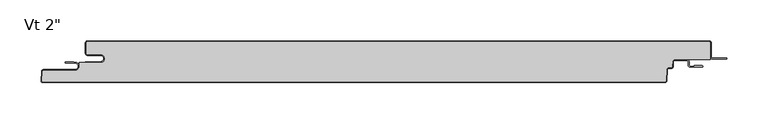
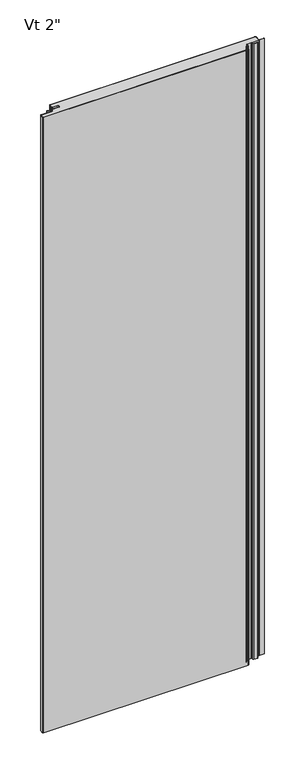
"""IFC4 building model written with IfcOpenShell, lengths in millimetres: plate geometry."""

from ifc_helpers import new_model, si_unit, point, frame, frame_2d, origin, origin_with_axes, place, context, project, spatial, polyline, circle_curve, ellipse_curve, trimmed, segment, composite_curve, outline, extrude, source, transform, mapped, element, save
from ifc_brep_helpers import plane_surface, cylinder_surface, revolved_surface, extruded_surface, advanced_brep


def plate_646a44a0(model_context):
    return source(origin(), model_context, "Body", "SolidModel", [
        extrude(outline(composite_curve([segment(trimmed(circle_curve(frame_2d((335.9683457, -25.4)), 2.5875), [point((335.9683457, -22.8125))], [point((333.3843918, -25.2645807))], True, "CARTESIAN"), True, "CONTINUOUS"), segment(polyline([(333.3843918, -25.2645807), (333.0823155, -31.028539)]), True, "CONTINUOUS"), segment(trimmed(circle_curve(frame_2d((331.7029585, -30.95625)), 1.38125), [point((333.0823155, -31.028539))], [point((331.7029585, -32.3375))], False, "CARTESIAN"), True, "CONTINUOUS"), segment(polyline([(331.7029585, -32.3375), (328.6591521, -32.3375)]), True, "CONTINUOUS"), segment(trimmed(circle_curve(frame_2d((328.6591521, -34.925)), 2.5875), [point((328.6591521, -32.3375))], [point((326.0751982, -34.7895807))], True, "CARTESIAN"), True, "CONTINUOUS"), segment(polyline([(326.0751982, -34.7895807), (325.3571352, -48.491039)]), True, "CONTINUOUS"), segment(trimmed(circle_curve(frame_2d((323.9777781, -48.41875)), 1.38125), [point((325.3571352, -48.491039))], [point((323.9777781, -49.8))], False, "CARTESIAN"), True, "CONTINUOUS"), segment(polyline([(323.9777781, -49.8), (-431.6656861, -49.8)]), True, "CONTINUOUS"), segment(trimmed(circle_curve(frame_2d((-431.6656861, -48.41875)), 1.38125), [point((-431.6656861, -49.8))], [point((-433.0450431, -48.346461))], False, "CARTESIAN"), True, "CONTINUOUS"), segment(polyline([(-433.0450431, -48.346461), (-432.4626617, -37.233961)]), True, "CONTINUOUS"), segment(trimmed(circle_curve(frame_2d((-431.0833046, -37.30625)), 1.38125), [point((-432.4626617, -37.233961))], [point((-431.0833046, -35.925))], False, "CARTESIAN"), True, "CONTINUOUS"), segment(polyline([(-431.0833046, -35.925), (-392.9, -35.925)]), True, "CONTINUOUS"), segment(trimmed(circle_curve(frame_2d((-392.9, -30.95625)), 4.96875), [point((-392.9, -35.925))], [point((-387.93125, -30.95625))], True, "CARTESIAN"), True, "CONTINUOUS"), segment(polyline([(-387.93125, -30.95625), (-387.93125, -26.4), (-361.94375, -26.4)]), True, "CONTINUOUS"), segment(trimmed(circle_curve(frame_2d((-361.94375, -21.43125)), 4.96875), [point((-361.94375, -26.4))], [point((-361.94375, -16.4625))], True, "CARTESIAN"), True, "CONTINUOUS"), segment(polyline([(-361.94375, -16.4625), (-377.81875, -16.4625)]), True, "CONTINUOUS"), segment(trimmed(circle_curve(frame_2d((-377.81875, -15.08125)), 1.38125), [point((-377.81875, -16.4625))], [point((-379.2, -15.08125))], False, "CARTESIAN"), True, "CONTINUOUS"), segment(polyline([(-379.2, -15.08125), (-379.2, -2.38125)]), True, "CONTINUOUS"), segment(trimmed(circle_curve(frame_2d((-377.81875, -2.38125)), 1.38125), [point((-379.2, -2.38125))], [point((-377.81875, -1.0))], False, "CARTESIAN"), True, "CONTINUOUS"), segment(polyline([(-377.81875, -1.0), (377.83125, -1.0)]), True, "CONTINUOUS"), segment(trimmed(circle_curve(frame_2d((377.83125, -2.38125)), 1.38125), [point((377.83125, -1.0))], [point((379.2125, -2.38125))], False, "CARTESIAN"), True, "CONTINUOUS"), segment(polyline([(379.2125, -2.38125), (379.2125, -22.8125), (335.9683457, -22.8125)]), True, "CONTINUOUS")], self_intersect=False)), origin_with_axes(), (0.0, 0.0, 1.0), 2400.0),
        extrude(outline(composite_curve([segment(polyline([(-380.2, -25.4), (-361.94375, -25.4)]), True, "CONTINUOUS"), segment(trimmed(circle_curve(frame_2d((-361.94375, -21.43125)), 3.96875), [point((-361.94375, -25.4))], [point((-361.94375, -17.4625))], True, "CARTESIAN"), True, "CONTINUOUS"), segment(polyline([(-361.94375, -17.4625), (-377.81875, -17.4625)]), True, "CONTINUOUS"), segment(trimmed(circle_curve(frame_2d((-377.81875, -15.08125)), 2.38125), [point((-377.81875, -17.4625))], [point((-380.2, -15.08125))], False, "CARTESIAN"), True, "CONTINUOUS"), segment(polyline([(-380.2, -15.08125), (-380.2, -2.38125)]), True, "CONTINUOUS"), segment(trimmed(circle_curve(frame_2d((-377.81875, -2.38125)), 2.38125), [point((-380.2, -2.38125))], [point((-377.81875, 0.0))], False, "CARTESIAN"), True, "CONTINUOUS"), segment(polyline([(-377.81875, 0.0), (377.83125, 0.0)]), True, "CONTINUOUS"), segment(trimmed(circle_curve(frame_2d((377.83125, -2.38125)), 2.38125), [point((377.83125, 0.0))], [point((380.2125, -2.38125))], False, "CARTESIAN"), True, "CONTINUOUS"), segment(polyline([(380.2125, -2.38125), (380.2125, -19.446875)]), True, "CONTINUOUS"), segment(trimmed(circle_curve(frame_2d((381.8, -19.446875)), 1.5875), [point((380.2125, -19.446875))], [point((381.8, -21.034375))], True, "CARTESIAN"), True, "CONTINUOUS"), segment(polyline([(381.8, -21.034375), (399.2625, -21.034375), (399.2625, -22.034375), (381.8, -22.034375)]), True, "CONTINUOUS"), segment(trimmed(circle_curve(frame_2d((381.8, -19.446875)), 2.5875), [point((381.8, -22.034375))], [point((379.2125, -19.446875))], False, "CARTESIAN"), True, "CONTINUOUS"), segment(polyline([(379.2125, -19.446875), (379.2125, -2.38125)]), True, "CONTINUOUS"), segment(trimmed(circle_curve(frame_2d((377.83125, -2.38125)), 1.38125), [point((379.2125, -2.38125))], [point((377.83125, -1.0))], True, "CARTESIAN"), True, "CONTINUOUS"), segment(polyline([(377.83125, -1.0), (-377.81875, -1.0)]), True, "CONTINUOUS"), segment(trimmed(circle_curve(frame_2d((-377.81875, -2.38125)), 1.38125), [point((-377.81875, -1.0))], [point((-379.2, -2.38125))], True, "CARTESIAN"), True, "CONTINUOUS"), segment(polyline([(-379.2, -2.38125), (-379.2, -15.08125)]), True, "CONTINUOUS"), segment(trimmed(circle_curve(frame_2d((-377.81875, -15.08125)), 1.38125), [point((-379.2, -15.08125))], [point((-377.81875, -16.4625))], True, "CARTESIAN"), True, "CONTINUOUS"), segment(polyline([(-377.81875, -16.4625), (-361.94375, -16.4625)]), True, "CONTINUOUS"), segment(trimmed(circle_curve(frame_2d((-361.94375, -21.43125)), 4.96875), [point((-361.94375, -16.4625))], [point((-361.94375, -26.4))], False, "CARTESIAN"), True, "CONTINUOUS"), segment(polyline([(-361.94375, -26.4), (-380.2, -26.4), (-380.2, -25.4)]), True, "CONTINUOUS")], self_intersect=False)), origin_with_axes(), (0.0, 0.0, 1.0), 2400.0),
        advanced_brep(
        [(-404.2252049, -25.4, 2400.0), (-404.2252049, -26.9875, 2400.0), (-392.9142674, -26.9875, 2400.0), (-392.9142674, -34.925, 2400.0), (-431.0975721, -34.925, 2400.0), (-433.4755586, -37.181625, 2400.0), (-434.0579401, -48.294125, 2400.0), (-431.6799535, -50.8, 2400.0), (323.9635107, -50.8, 2400.0), (326.3414973, -48.543375, 2400.0), (327.0595603, -34.8419167, 2400.0), (328.6448847, -33.3375, 2400.0), (331.6886911, -33.3375, 2400.0), (334.0666776, -31.080875, 2400.0), (334.3687539, -25.3169167, 2400.0), (335.9540783, -23.8125, 2400.0), (350.8294826, -23.8125, 2400.0), (352.4169826, -25.4, 2400.0), (352.4169826, -29.5671875, 2400.0), (354.7982326, -31.9484375, 2400.0), (369.2898532, -31.9484375, 2400.0), (369.2898532, -30.1546875, 2400.0), (359.5607326, -30.1546875, 2400.0), (359.5607326, -30.9484375, 2400.0), (354.7982326, -30.9484375, 2400.0), (353.4169826, -29.5671875, 2400.0), (353.4169826, -25.4, 2400.0), (350.8294826, -22.8125, 2400.0), (335.9540783, -22.8125, 2400.0), (333.3701244, -25.2645807, 2400.0), (333.0680481, -31.028539, 2400.0), (331.6886911, -32.3375, 2400.0), (328.6448847, -32.3375, 2400.0), (326.0609307, -34.7895807, 2400.0), (325.3428677, -48.491039, 2400.0), (323.9635107, -49.8, 2400.0), (-431.6799535, -49.8, 2400.0), (-433.0593106, -48.346461, 2400.0), (-432.4769291, -37.233961, 2400.0), (-431.0975721, -35.925, 2400.0), (-392.9142674, -35.925, 2400.0), (-392.9142674, -25.9875, 2400.0), (-394.5017674, -26.19375, 2400.0), (-394.5017674, -25.4, 2400.0), (-404.2252049, -25.4, 0.0), (-394.5017674, -25.4, 0.0), (-394.5017674, -26.19375, 0.0), (-392.9142674, -25.9875, 0.0), (-392.9142674, -35.925, 0.0), (-431.0975721, -35.925, 0.0), (-432.4769291, -37.233961, 0.0), (-433.0593106, -48.346461, 0.0), (-431.6799535, -49.8, 0.0), (323.9635107, -49.8, 0.0), (325.3428677, -48.491039, 0.0), (326.0609307, -34.7895807, 0.0), (328.6448847, -32.3375, 0.0), (331.6886911, -32.3375, 0.0), (333.0680481, -31.028539, 0.0), (333.3701244, -25.2645807, 0.0), (335.9540783, -22.8125, 0.0), (350.8294826, -22.8125, 0.0), (353.4169826, -25.4, 0.0), (353.4169826, -29.5671875, 0.0), (354.7982326, -30.9484375, 0.0), (359.5607326, -30.9484375, 0.0), (359.5607326, -30.1546875, 0.0), (369.2898532, -30.1546875, 0.0), (369.2898532, -31.9484375, 0.0), (354.7982326, -31.9484375, 0.0), (352.4169826, -29.5671875, 0.0), (352.4169826, -25.4, 0.0), (350.8294826, -23.8125, 0.0), (335.9540783, -23.8125, 0.0), (334.3687539, -25.3169167, 0.0), (334.0666776, -31.080875, 0.0), (331.6886911, -33.3375, 0.0), (328.6448847, -33.3375, 0.0), (327.0595603, -34.8419167, 0.0), (326.3414973, -48.543375, 0.0), (323.9635107, -50.8, 0.0), (-431.6799535, -50.8, 0.0), (-434.0579401, -48.294125, 0.0), (-433.4755586, -37.181625, 0.0), (-431.0975721, -34.925, 0.0), (-392.9142674, -34.925, 0.0), (-392.9142674, -26.9875, 0.0), (-404.2252049, -26.9875, 0.0)],
        [
            (0, 1, circle_curve(frame((-404.2252049, -26.19375, 2400.0), z_axis=(0.0, 0.0, 1.0), x_axis=(1.0, 0.0, 0.0)), 0.79375)),
            (1, 2),
            (2, 3, circle_curve(frame((-392.9142674, -30.95625, 2400.0), z_axis=(0.0, 0.0, -1.0), x_axis=(1.0, 0.0, 0.0)), 3.96875)),
            (3, 4),
            (4, 5, circle_curve(frame((-431.0975721, -37.30625, 2400.0), z_axis=(0.0, 0.0, 1.0), x_axis=(1.0, 0.0, 0.0)), 2.38125)),
            (5, 6),
            (6, 7, circle_curve(frame((-431.6799535, -48.41875, 2400.0), z_axis=(0.0, 0.0, 1.0), x_axis=(1.0, 0.0, 0.0)), 2.38125)),
            (7, 8),
            (8, 9, circle_curve(frame((323.9635107, -48.41875, 2400.0), z_axis=(0.0, 0.0, 1.0), x_axis=(1.0, 0.0, 0.0)), 2.38125)),
            (9, 10),
            (10, 11, circle_curve(frame((328.6448847, -34.925, 2400.0), z_axis=(0.0, 0.0, -1.0), x_axis=(1.0, 0.0, 0.0)), 1.5875)),
            (11, 12),
            (12, 13, circle_curve(frame((331.6886911, -30.95625, 2400.0), z_axis=(0.0, 0.0, 1.0), x_axis=(1.0, 0.0, 0.0)), 2.38125)),
            (13, 14),
            (14, 15, circle_curve(frame((335.9540783, -25.4, 2400.0), z_axis=(0.0, 0.0, -1.0), x_axis=(1.0, 0.0, 0.0)), 1.5875)),
            (15, 16),
            (16, 17, circle_curve(frame((350.8294826, -25.4, 2400.0), z_axis=(0.0, 0.0, -1.0), x_axis=(1.0, 0.0, 0.0)), 1.5875)),
            (17, 18),
            (18, 19, circle_curve(frame((354.7982326, -29.5671875, 2400.0), z_axis=(0.0, 0.0, 1.0), x_axis=(1.0, 0.0, 0.0)), 2.38125)),
            (19, 20),
            (20, 21, ellipse_curve(frame((369.2898532, -31.0515625, 2400.0), z_axis=(0.0, 0.0, 1.0), x_axis=(0.0, 1.0, 0.0)), 0.896875, 0.7852275)),
            (21, 22),
            (22, 23),
            (23, 24),
            (24, 25, circle_curve(frame((354.7982326, -29.5671875, 2400.0), z_axis=(0.0, 0.0, -1.0), x_axis=(1.0, 0.0, 0.0)), 1.38125)),
            (25, 26),
            (26, 27, circle_curve(frame((350.8294826, -25.4, 2400.0), z_axis=(0.0, 0.0, 1.0), x_axis=(1.0, 0.0, 0.0)), 2.5875)),
            (27, 28),
            (28, 29, circle_curve(frame((335.9540783, -25.4, 2400.0), z_axis=(0.0, 0.0, 1.0), x_axis=(1.0, 0.0, 0.0)), 2.5875)),
            (29, 30),
            (30, 31, circle_curve(frame((331.6886911, -30.95625, 2400.0), z_axis=(0.0, 0.0, -1.0), x_axis=(1.0, 0.0, 0.0)), 1.38125)),
            (31, 32),
            (32, 33, circle_curve(frame((328.6448847, -34.925, 2400.0), z_axis=(0.0, 0.0, 1.0), x_axis=(1.0, 0.0, 0.0)), 2.5875)),
            (33, 34),
            (34, 35, circle_curve(frame((323.9635107, -48.41875, 2400.0), z_axis=(0.0, 0.0, -1.0), x_axis=(1.0, 0.0, 0.0)), 1.38125)),
            (35, 36),
            (36, 37, circle_curve(frame((-431.6799535, -48.41875, 2400.0), z_axis=(0.0, 0.0, -1.0), x_axis=(1.0, 0.0, 0.0)), 1.38125)),
            (37, 38),
            (38, 39, circle_curve(frame((-431.0975721, -37.30625, 2400.0), z_axis=(0.0, 0.0, -1.0), x_axis=(1.0, 0.0, 0.0)), 1.38125)),
            (39, 40),
            (40, 41, circle_curve(frame((-392.9142674, -30.95625, 2400.0), z_axis=(0.0, 0.0, 1.0), x_axis=(1.0, 0.0, 0.0)), 4.96875)),
            (41, 42),
            (42, 43),
            (43, 0),
            (44, 45),
            (45, 46),
            (46, 47),
            (47, 48, circle_curve(frame((-392.9142674, -30.95625, 0.0), z_axis=(0.0, 0.0, -1.0), x_axis=(1.0, 0.0, 0.0)), 4.96875)),
            (48, 49),
            (49, 50, circle_curve(frame((-431.0975721, -37.30625, 0.0), z_axis=(0.0, 0.0, 1.0), x_axis=(1.0, 0.0, 0.0)), 1.38125)),
            (50, 51),
            (51, 52, circle_curve(frame((-431.6799535, -48.41875, 0.0), z_axis=(0.0, 0.0, 1.0), x_axis=(1.0, 0.0, 0.0)), 1.38125)),
            (52, 53),
            (53, 54, circle_curve(frame((323.9635107, -48.41875, 0.0), z_axis=(0.0, 0.0, 1.0), x_axis=(1.0, 0.0, 0.0)), 1.38125)),
            (54, 55),
            (55, 56, circle_curve(frame((328.6448847, -34.925, 0.0), z_axis=(0.0, 0.0, -1.0), x_axis=(1.0, 0.0, 0.0)), 2.5875)),
            (56, 57),
            (57, 58, circle_curve(frame((331.6886911, -30.95625, 0.0), z_axis=(0.0, 0.0, 1.0), x_axis=(1.0, 0.0, 0.0)), 1.38125)),
            (58, 59),
            (59, 60, circle_curve(frame((335.9540783, -25.4, 0.0), z_axis=(0.0, 0.0, -1.0), x_axis=(1.0, 0.0, 0.0)), 2.5875)),
            (60, 61),
            (61, 62, circle_curve(frame((350.8294826, -25.4, 0.0), z_axis=(0.0, 0.0, -1.0), x_axis=(1.0, 0.0, 0.0)), 2.5875)),
            (62, 63),
            (63, 64, circle_curve(frame((354.7982326, -29.5671875, 0.0), z_axis=(0.0, 0.0, 1.0), x_axis=(1.0, 0.0, 0.0)), 1.38125)),
            (64, 65),
            (65, 66),
            (66, 67),
            (67, 68, ellipse_curve(frame((369.2898532, -31.0515625, 0.0), z_axis=(0.0, 0.0, -1.0), x_axis=(0.0, 1.0, 0.0)), 0.896875, 0.7852275)),
            (68, 69),
            (69, 70, circle_curve(frame((354.7982326, -29.5671875, 0.0), z_axis=(0.0, 0.0, -1.0), x_axis=(1.0, 0.0, 0.0)), 2.38125)),
            (70, 71),
            (71, 72, circle_curve(frame((350.8294826, -25.4, 0.0), z_axis=(0.0, 0.0, 1.0), x_axis=(1.0, 0.0, 0.0)), 1.5875)),
            (72, 73),
            (73, 74, circle_curve(frame((335.9540783, -25.4, 0.0), z_axis=(0.0, 0.0, 1.0), x_axis=(1.0, 0.0, 0.0)), 1.5875)),
            (74, 75),
            (75, 76, circle_curve(frame((331.6886911, -30.95625, 0.0), z_axis=(0.0, 0.0, -1.0), x_axis=(1.0, 0.0, 0.0)), 2.38125)),
            (76, 77),
            (77, 78, circle_curve(frame((328.6448847, -34.925, 0.0), z_axis=(0.0, 0.0, 1.0), x_axis=(1.0, 0.0, 0.0)), 1.5875)),
            (78, 79),
            (79, 80, circle_curve(frame((323.9635107, -48.41875, 0.0), z_axis=(0.0, 0.0, -1.0), x_axis=(1.0, 0.0, 0.0)), 2.38125)),
            (80, 81),
            (81, 82, circle_curve(frame((-431.6799535, -48.41875, 0.0), z_axis=(0.0, 0.0, -1.0), x_axis=(1.0, 0.0, 0.0)), 2.38125)),
            (82, 83),
            (83, 84, circle_curve(frame((-431.0975721, -37.30625, 0.0), z_axis=(0.0, 0.0, -1.0), x_axis=(1.0, 0.0, 0.0)), 2.38125)),
            (84, 85),
            (85, 86, circle_curve(frame((-392.9142674, -30.95625, 0.0), z_axis=(0.0, 0.0, 1.0), x_axis=(1.0, 0.0, 0.0)), 3.96875)),
            (86, 87),
            (87, 44, circle_curve(frame((-404.2252049, -26.19375, 0.0), z_axis=(0.0, 0.0, -1.0), x_axis=(1.0, 0.0, 0.0)), 0.79375)),
            (20, 68),
            (67, 21),
            (66, 22),
            (65, 23),
            (41, 47),
            (46, 42),
            (45, 43),
            (40, 48),
            (39, 49),
            (38, 50),
            (37, 51),
            (33, 55),
            (54, 34),
            (32, 56),
            (31, 57),
            (30, 58),
            (29, 59),
            (28, 60),
            (64, 24),
            (63, 25),
            (62, 26),
            (61, 27),
            (18, 70),
            (69, 19),
            (17, 71),
            (16, 72),
            (15, 73),
            (14, 74),
            (13, 75),
            (12, 76),
            (11, 77),
            (10, 78),
            (9, 79),
            (5, 83),
            (82, 6),
            (4, 84),
            (3, 85),
            (2, 86),
            (1, 87),
            (0, 44),
            (36, 52),
            (35, 53),
            (8, 80),
            (7, 81),
        ],
        [
            plane_surface(frame((0.00625, -50.8, 2400.0), z_axis=(0.0, 0.0, 1.0), x_axis=(0.0, -1.0, 0.0))),
            plane_surface(frame((0.00625, -50.8, 0.0), z_axis=(0.0, 0.0, -1.0), x_axis=(0.0, -1.0, 0.0))),
            extruded_surface(trimmed(ellipse_curve(frame((369.2898532, -31.0515625, 2400.0), z_axis=(0.0, 0.0, -1.0), x_axis=(0.0, 1.0, 0.0)), 0.896875, 0.7852275), [point((369.2898532, -30.1546875, 2400.0))], [point((369.2898532, -31.9484375, 2400.0))], True, "CARTESIAN"), (0.0, 0.0, -2400.0), 2400.0),
            plane_surface(frame((359.5607326, -30.1546875, 2400.0), z_axis=(0.0, 1.0, 0.0), x_axis=(0.0, 0.0, -1.0))),
            plane_surface(frame((359.5607326, -30.9484375, 2400.0), z_axis=(-1.0, 0.0, 0.0), x_axis=(0.0, 0.0, -1.0))),
            plane_surface(frame((-394.5017674, -26.19375, 2400.0), z_axis=(-0.12883844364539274, 0.9916655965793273, 0.0), x_axis=(0.0, 0.0, -1.0))),
            plane_surface(frame((-394.5017674, -25.4, 2400.0), z_axis=(1.0, 0.0, 0.0), x_axis=(0.0, 0.0, -1.0))),
            cylinder_surface(frame((-392.9142674, -30.95625, 2400.0), z_axis=(0.0, 0.0, 1.0), x_axis=(1.0, 0.0, 0.0)), 4.96875),
            plane_surface(frame((-392.9142674, -35.925, 2400.0), z_axis=(0.0, -1.0, 0.0), x_axis=(0.0, 0.0, -1.0))),
            revolved_surface(polyline([(-429.71632209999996, -37.30625, 0.0), (-429.71632209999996, -37.30625, 2400.0)]), (-431.0975721, -37.30625, 2400.0), (0.0, 0.0, -1.0)),
            plane_surface(frame((-432.4769291, -37.233961, 2400.0), z_axis=(0.9986295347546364, -0.05233595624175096, 0.0), x_axis=(0.0, 0.0, -1.0))),
            plane_surface(frame((325.3428677, -48.491039, 2400.0), z_axis=(-0.9986295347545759, 0.05233595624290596, 0.0), x_axis=(0.0, 0.0, -1.0))),
            cylinder_surface(frame((328.6448847, -34.925, 2400.0), z_axis=(0.0, 0.0, 1.0), x_axis=(1.0, 0.0, 0.0)), 2.5875),
            plane_surface(frame((328.6448847, -32.3375, 2400.0), z_axis=(0.0, 1.0, 0.0), x_axis=(0.0, 0.0, -1.0))),
            revolved_surface(polyline([(333.06994110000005, -30.95625, 0.0), (333.06994110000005, -30.95625, 2400.0)]), (331.6886911, -30.95625, 2400.0), (0.0, 0.0, -1.0)),
            plane_surface(frame((333.0680481, -31.028539, 2400.0), z_axis=(-0.998629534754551, 0.05233595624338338, 0.0), x_axis=(0.0, 0.0, -1.0))),
            cylinder_surface(frame((335.9540783, -25.4, 2400.0), z_axis=(0.0, 0.0, 1.0), x_axis=(1.0, 0.0, 0.0)), 2.5875),
            plane_surface(frame((354.7982326, -30.9484375, 2400.0), z_axis=(0.0, 1.0, 0.0), x_axis=(0.0, 0.0, -1.0))),
            revolved_surface(polyline([(356.17948260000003, -29.5671875, 0.0), (356.17948260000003, -29.5671875, 2400.0)]), (354.7982326, -29.5671875, 2400.0), (0.0, 0.0, -1.0)),
            plane_surface(frame((353.4169826, -25.4, 2400.0), z_axis=(1.0, 0.0, 0.0), x_axis=(0.0, 0.0, -1.0))),
            cylinder_surface(frame((350.8294826, -25.4, 2400.0), z_axis=(0.0, 0.0, 1.0), x_axis=(1.0, 0.0, 0.0)), 2.5875),
            plane_surface(frame((335.9540783, -22.8125, 2400.0), z_axis=(0.0, 1.0, 0.0), x_axis=(0.0, 0.0, -1.0))),
            cylinder_surface(frame((354.7982326, -29.5671875, 2400.0), z_axis=(0.0, 0.0, 1.0), x_axis=(1.0, 0.0, 0.0)), 2.38125),
            plane_surface(frame((352.4169826, -29.5671875, 2400.0), z_axis=(-1.0, 0.0, 0.0), x_axis=(0.0, 0.0, -1.0))),
            revolved_surface(polyline([(352.4169826, -25.4, 0.0), (352.4169826, -25.4, 2400.0)]), (350.8294826, -25.4, 2400.0), (0.0, 0.0, -1.0)),
            plane_surface(frame((350.8294826, -23.8125, 2400.0), z_axis=(0.0, -1.0, 0.0), x_axis=(0.0, 0.0, -1.0))),
            revolved_surface(polyline([(337.54157829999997, -25.4, 0.0), (337.54157829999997, -25.4, 2400.0)]), (335.9540783, -25.4, 2400.0), (0.0, 0.0, -1.0)),
            plane_surface(frame((334.3687539, -25.3169167, 2400.0), z_axis=(0.9986295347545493, -0.05233595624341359, 0.0), x_axis=(0.0, 0.0, -1.0))),
            cylinder_surface(frame((331.6886911, -30.95625, 2400.0), z_axis=(0.0, 0.0, 1.0), x_axis=(1.0, 0.0, 0.0)), 2.38125),
            plane_surface(frame((331.6886911, -33.3375, 2400.0), z_axis=(0.0, -1.0, 0.0), x_axis=(0.0, 0.0, -1.0))),
            revolved_surface(polyline([(330.23238469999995, -34.925, 0.0), (330.23238469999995, -34.925, 2400.0)]), (328.6448847, -34.925, 2400.0), (0.0, 0.0, -1.0)),
            plane_surface(frame((327.0595603, -34.8419167, 2400.0), z_axis=(0.9986295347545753, -0.052335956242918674, 0.0), x_axis=(0.0, 0.0, -1.0))),
            plane_surface(frame((-434.0579401, -48.294125, 2400.0), z_axis=(-0.9986295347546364, 0.05233595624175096, 0.0), x_axis=(0.0, 0.0, -1.0))),
            cylinder_surface(frame((-431.0975721, -37.30625, 2400.0), z_axis=(0.0, 0.0, 1.0), x_axis=(1.0, 0.0, 0.0)), 2.38125),
            plane_surface(frame((-431.0975721, -34.925, 2400.0), z_axis=(0.0, 1.0, 0.0), x_axis=(0.0, 0.0, -1.0))),
            revolved_surface(polyline([(-388.9455174, -30.95625, 0.0), (-388.9455174, -30.95625, 2400.0)]), (-392.9142674, -30.95625, 2400.0), (0.0, 0.0, -1.0)),
            plane_surface(frame((-392.9142674, -26.9875, 2400.0), z_axis=(0.0, -1.0, 0.0), x_axis=(0.0, 0.0, -1.0))),
            cylinder_surface(frame((-404.2252049, -26.19375, 2400.0), z_axis=(0.0, 0.0, 1.0), x_axis=(1.0, 0.0, 0.0)), 0.79375),
            plane_surface(frame((-404.2252049, -25.4, 2400.0), z_axis=(0.0, 1.0, 0.0), x_axis=(0.0, 0.0, -1.0))),
            revolved_surface(polyline([(-430.2987035, -48.41875, 0.0), (-430.2987035, -48.41875, 2400.0)]), (-431.6799535, -48.41875, 2400.0), (0.0, 0.0, -1.0)),
            plane_surface(frame((-431.6799535, -49.8, 2400.0), z_axis=(0.0, 1.0, 0.0), x_axis=(0.0, 0.0, -1.0))),
            revolved_surface(polyline([(325.3447607, -48.41875, 0.0), (325.3447607, -48.41875, 2400.0)]), (323.9635107, -48.41875, 2400.0), (0.0, 0.0, -1.0)),
            plane_surface(frame((369.2898532, -31.9484375, 2400.0), z_axis=(0.0, -1.0, 0.0), x_axis=(0.0, 0.0, -1.0))),
            cylinder_surface(frame((323.9635107, -48.41875, 2400.0), z_axis=(0.0, 0.0, 1.0), x_axis=(1.0, 0.0, 0.0)), 2.38125),
            plane_surface(frame((323.9635107, -50.8, 2400.0), z_axis=(0.0, -1.0, 0.0), x_axis=(0.0, 0.0, -1.0))),
            cylinder_surface(frame((-431.6799535, -48.41875, 2400.0), z_axis=(0.0, 0.0, 1.0), x_axis=(1.0, 0.0, 0.0)), 2.38125),
        ],
        [
            (0, [[1, 2, 3, 4, 5, 6, 7, 8, 9, 10, 11, 12, 13, 14, 15, 16, 17, 18, 19, 20, 21, 22, 23, 24, 25, 26, 27, 28, 29, 30, 31, 32, 33, 34, 35, 36, 37, 38, 39, 40, 41, 42, 43, 44]]),
            (1, [[45, 46, 47, 48, 49, 50, 51, 52, 53, 54, 55, 56, 57, 58, 59, 60, 61, 62, 63, 64, 65, 66, 67, 68, 69, 70, 71, 72, 73, 74, 75, 76, 77, 78, 79, 80, 81, 82, 83, 84, 85, 86, 87, 88]]),
            (2, [[89, -68, 90, -21]]),
            (3, [[-90, -67, 91, -22]]),
            (4, [[-91, -66, 92, -23]]),
            (5, [[93, -47, 94, -42]]),
            (6, [[-94, -46, 95, -43]]),
            (7, [[96, -48, -93, -41]]),
            (8, [[97, -49, -96, -40]]),
            (9, [[98, -50, -97, -39]]),
            (10, [[99, -51, -98, -38]]),
            (11, [[100, -55, 101, -34]]),
            (12, [[102, -56, -100, -33]]),
            (13, [[103, -57, -102, -32]]),
            (14, [[104, -58, -103, -31]]),
            (15, [[105, -59, -104, -30]]),
            (16, [[106, -60, -105, -29]]),
            (17, [[-92, -65, 107, -24]]),
            (18, [[-107, -64, 108, -25]]),
            (19, [[-108, -63, 109, -26]]),
            (20, [[-109, -62, 110, -27]]),
            (21, [[-110, -61, -106, -28]]),
            (22, [[111, -70, 112, -19]]),
            (23, [[113, -71, -111, -18]]),
            (24, [[114, -72, -113, -17]]),
            (25, [[115, -73, -114, -16]]),
            (26, [[116, -74, -115, -15]]),
            (27, [[117, -75, -116, -14]]),
            (28, [[118, -76, -117, -13]]),
            (29, [[119, -77, -118, -12]]),
            (30, [[120, -78, -119, -11]]),
            (31, [[121, -79, -120, -10]]),
            (32, [[122, -83, 123, -6]]),
            (33, [[124, -84, -122, -5]]),
            (34, [[125, -85, -124, -4]]),
            (35, [[126, -86, -125, -3]]),
            (36, [[127, -87, -126, -2]]),
            (37, [[128, -88, -127, -1]]),
            (38, [[-95, -45, -128, -44]]),
            (39, [[129, -52, -99, -37]]),
            (40, [[130, -53, -129, -36]]),
            (41, [[-101, -54, -130, -35]]),
            (42, [[-112, -69, -89, -20]]),
            (43, [[131, -80, -121, -9]]),
            (44, [[132, -81, -131, -8]]),
            (45, [[-123, -82, -132, -7]]),
        ],
    ),
    ])


if __name__ == "__main__":
    model = new_model("IFC4")
    model_context = context("Model", 3, world=origin())
    ifc_project = project(units=[si_unit("LENGTHUNIT", "METRE", prefix="MILLI")], contexts=[model_context])
    site = spatial("IfcSite", under=ifc_project)
    building = spatial("IfcBuilding", under=site)
    placement = place(None, origin())
    plate_shape = plate_646a44a0(model_context)
    element("IfcPlate", 1, ObjectType="KIP-30-DWTR-R19-CP-Vt-F : Vt 2\"", at=placement, inside=building, context=model_context, shape_type="MappedRepresentation", body=[
        mapped(plate_shape, transform((0.0, 0.0, 0.0), x_axis=(1.0, 0.0, 0.0), y_axis=(0.0, 1.0, 0.0), z_axis=(0.0, 0.0, 1.0))),
    ])
    save(model, "model.ifc")
